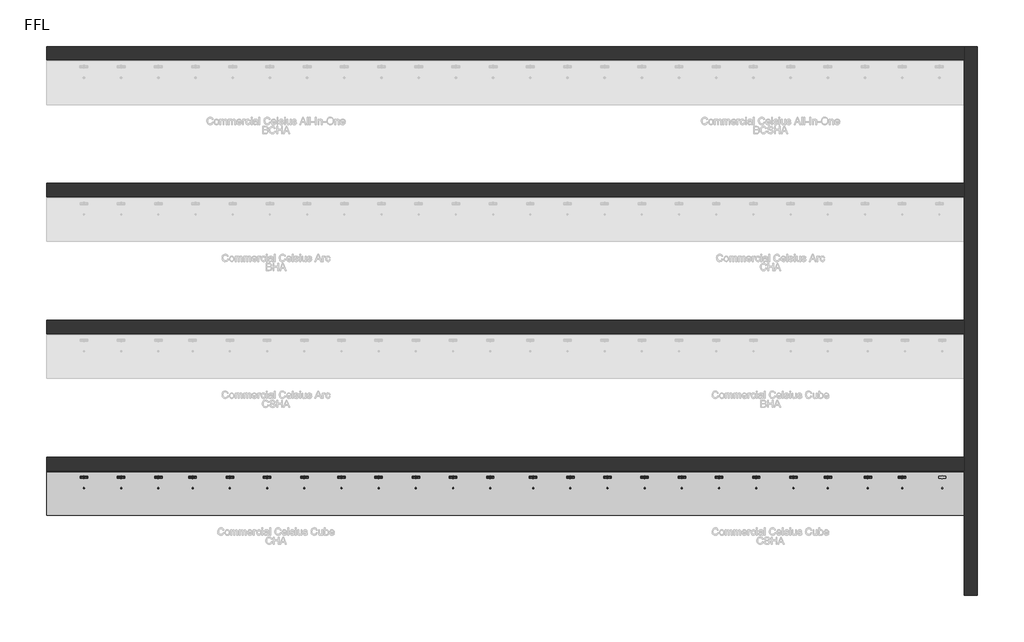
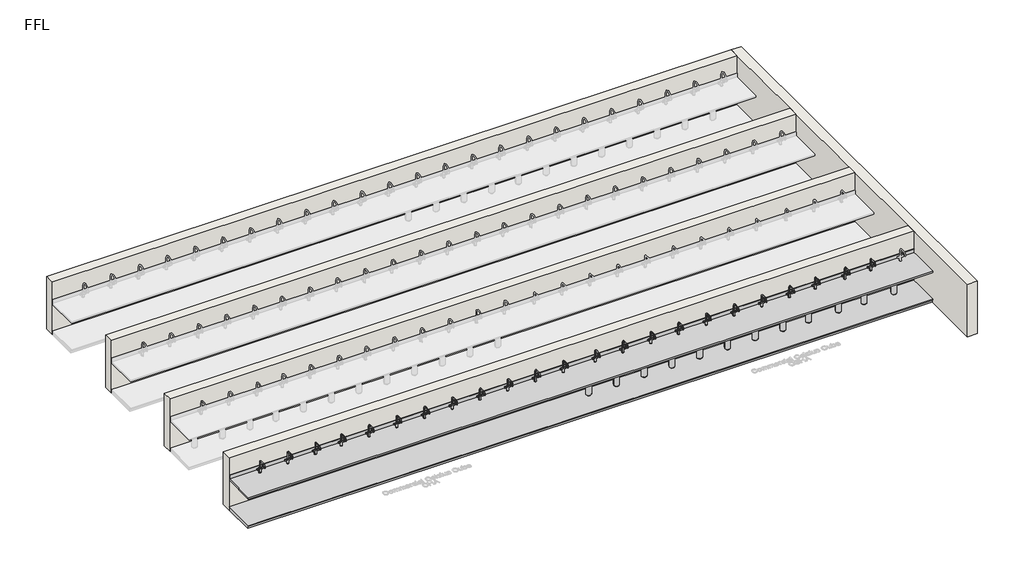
# One storey, part 1 of 10: 59 flow terminals, 5 walls, 2 furniture elements.
"""IFC4 building model written with IfcOpenShell, lengths in millimetres."""

from ifc_helpers import new_model, si_unit, frame, origin, origin_with_axes, place, context, project, spatial, polyline, circle_curve, outline, extrude, faceted_brep, transform, mapped, element, save
from ifc_brep_helpers import plane_surface, revolved_surface, advanced_brep
from components import flow_terminal_1fd3c137, bright_chrome_d5fbbf34, co2_gas_cylinder_20234e14, generic_plinth_900mm_f287d53f

model = new_model("IFC4")

# Units and contexts
model_context = context("Model", 3, world=origin())
ifc_project = project(units=[si_unit("LENGTHUNIT", "METRE", prefix="MILLI")], contexts=[model_context])

# Site, building, storey
site = spatial("IfcSite", under=ifc_project)
building = spatial("IfcBuilding", under=site)
storey = spatial("IfcBuildingStorey", under=building, Name="FFL", Elevation=0.0)

# Flow terminals
placement = place(None, origin())
flow_terminal_shape = flow_terminal_1fd3c137(model_context)
element("IfcFlowTerminal", 1, ObjectType="z_PlumFixt_Zenith_Booster : Booster", at=placement, inside=storey, context=model_context, shape_type="MappedRepresentation", body=[
    mapped(flow_terminal_shape, transform((11089.2647071, -379.7606696, 498.0), x_axis=(1.0, 0.0, 0.0), y_axis=(0.0, 1.0, 0.0), z_axis=(0.0, 0.0, 1.0))),
])
element("IfcFlowTerminal", 2, ObjectType="z_PlumFixt_Zenith_Booster : Booster", at=placement, inside=storey, context=model_context, shape_type="MappedRepresentation", body=[
    mapped(flow_terminal_shape, transform((10282.2647071, -379.7606696, 498.0), x_axis=(1.0, 0.0, 0.0), y_axis=(0.0, 1.0, 0.0), z_axis=(0.0, 0.0, 1.0))),
])
element("IfcFlowTerminal", 3, ObjectType="z_PlumFixt_Zenith_Booster : Booster", at=placement, inside=storey, context=model_context, shape_type="MappedRepresentation", body=[
    mapped(flow_terminal_shape, transform((9589.2647071, -379.7606696, 498.0), x_axis=(1.0, 0.0, 0.0), y_axis=(0.0, 1.0, 0.0), z_axis=(0.0, 0.0, 1.0))),
])
element("IfcFlowTerminal", 4, ObjectType="z_PlumFixt_Zenith_Booster : Booster", at=placement, inside=storey, context=model_context, shape_type="MappedRepresentation", body=[
    mapped(flow_terminal_shape, transform((8782.2647071, -379.7606696, 498.0), x_axis=(1.0, 0.0, 0.0), y_axis=(0.0, 1.0, 0.0), z_axis=(0.0, 0.0, 1.0))),
])
element("IfcFlowTerminal", 5, ObjectType="z_PlumFixt_Zenith_Booster : Booster", at=placement, inside=storey, context=model_context, shape_type="MappedRepresentation", body=[
    mapped(flow_terminal_shape, transform((8089.2647071, -379.7606696, 498.0), x_axis=(1.0, 0.0, 0.0), y_axis=(0.0, 1.0, 0.0), z_axis=(0.0, 0.0, 1.0))),
])
element("IfcFlowTerminal", 6, ObjectType="z_PlumFixt_Zenith_Booster : Booster", at=placement, inside=storey, context=model_context, shape_type="MappedRepresentation", body=[
    mapped(flow_terminal_shape, transform((7339.2647071, -379.7606696, 498.0), x_axis=(1.0, 0.0, 0.0), y_axis=(0.0, 1.0, 0.0), z_axis=(0.0, 0.0, 1.0))),
])
element("IfcFlowTerminal", 7, ObjectType="z_PlumFixt_Zenith_Booster : Booster", at=placement, inside=storey, context=model_context, shape_type="MappedRepresentation", body=[
    mapped(flow_terminal_shape, transform((6589.2647071, -379.7606696, 498.0), x_axis=(1.0, 0.0, 0.0), y_axis=(0.0, 1.0, 0.0), z_axis=(0.0, 0.0, 1.0))),
])
element("IfcFlowTerminal", 8, ObjectType="z_PlumFixt_Zenith_Booster : Booster", at=placement, inside=storey, context=model_context, shape_type="MappedRepresentation", body=[
    mapped(flow_terminal_shape, transform((5839.2647071, -379.7606696, 498.0), x_axis=(1.0, 0.0, 0.0), y_axis=(0.0, 1.0, 0.0), z_axis=(0.0, 0.0, 1.0))),
])
element("IfcFlowTerminal", 9, ObjectType="z_PlumFixt_Zenith_Booster : Booster", at=placement, inside=storey, context=model_context, shape_type="MappedRepresentation", body=[
    mapped(flow_terminal_shape, transform((5089.7647071, -379.7606696, 498.0), x_axis=(1.0, 0.0, 0.0), y_axis=(0.0, 1.0, 0.0), z_axis=(0.0, 0.0, 1.0))),
])
element("IfcFlowTerminal", 10, ObjectType="z_PlumFixt_Zenith_Booster : Booster", at=placement, inside=storey, context=model_context, shape_type="MappedRepresentation", body=[
    mapped(flow_terminal_shape, transform((4339.7647071, -379.7606696, 498.0), x_axis=(1.0, 0.0, 0.0), y_axis=(0.0, 1.0, 0.0), z_axis=(0.0, 0.0, 1.0))),
])
element("IfcFlowTerminal", 11, ObjectType="z_PlumFixt_Zenith_Booster : Booster", at=placement, inside=storey, context=model_context, shape_type="MappedRepresentation", body=[
    mapped(flow_terminal_shape, transform((3589.7647071, -379.7606696, 498.0), x_axis=(1.0, 0.0, 0.0), y_axis=(0.0, 1.0, 0.0), z_axis=(0.0, 0.0, 1.0))),
])
element("IfcFlowTerminal", 12, ObjectType="z_PlumFixt_Zenith_Booster : Booster", at=placement, inside=storey, context=model_context, shape_type="MappedRepresentation", body=[
    mapped(flow_terminal_shape, transform((2839.7647071, -379.7606696, 498.0), x_axis=(1.0, 0.0, 0.0), y_axis=(0.0, 1.0, 0.0), z_axis=(0.0, 0.0, 1.0))),
])
element("IfcFlowTerminal", 13, ObjectType="z_PlumFixt_Zenith_Booster : Booster", at=placement, inside=storey, context=model_context, shape_type="MappedRepresentation", body=[
    mapped(flow_terminal_shape, transform((1976.2647071, -379.7606696, 498.0), x_axis=(1.0, 0.0, 0.0), y_axis=(0.0, 1.0, 0.0), z_axis=(0.0, 0.0, 1.0))),
])
element("IfcFlowTerminal", 14, ObjectType="z_PlumFixt_Zenith_Booster : Booster", at=placement, inside=storey, context=model_context, shape_type="MappedRepresentation", body=[
    mapped(flow_terminal_shape, transform((1226.2647071, -379.7606696, 498.0), x_axis=(1.0, 0.0, 0.0), y_axis=(0.0, 1.0, 0.0), z_axis=(0.0, 0.0, 1.0))),
])
element("IfcFlowTerminal", 15, ObjectType="z_PlumFixt_Zenith_Booster : Booster", at=placement, inside=storey, context=model_context, shape_type="MappedRepresentation", body=[
    mapped(flow_terminal_shape, transform((476.2647071, -379.7606696, 498.0), x_axis=(1.0, 0.0, 0.0), y_axis=(0.0, 1.0, 0.0), z_axis=(0.0, 0.0, 1.0))),
])
element("IfcFlowTerminal", 16, ObjectType="z_PlumFixt_Zenith_Booster : Booster", at=placement, inside=storey, context=model_context, shape_type="MappedRepresentation", body=[
    mapped(flow_terminal_shape, transform((-273.7352929, -379.7606696, 498.0), x_axis=(1.0, 0.0, 0.0), y_axis=(0.0, 1.0, 0.0), z_axis=(0.0, 0.0, 1.0))),
])
element("IfcFlowTerminal", 17, ObjectType="z_PlumFixt_Zenith_Booster : Booster", at=placement, inside=storey, context=model_context, shape_type="MappedRepresentation", body=[
    mapped(flow_terminal_shape, transform((-1023.7352929, -379.7606696, 498.0), x_axis=(1.0, 0.0, 0.0), y_axis=(0.0, 1.0, 0.0), z_axis=(0.0, 0.0, 1.0))),
])
element("IfcFlowTerminal", 18, ObjectType="z_PlumFixt_Zenith_Booster : Booster", at=placement, inside=storey, context=model_context, shape_type="MappedRepresentation", body=[
    mapped(flow_terminal_shape, transform((-1773.7352929, -379.7606696, 498.0), x_axis=(1.0, 0.0, 0.0), y_axis=(0.0, 1.0, 0.0), z_axis=(0.0, 0.0, 1.0))),
])
element("IfcFlowTerminal", 19, ObjectType="z_PlumFixt_Zenith_Booster : Booster", at=placement, inside=storey, context=model_context, shape_type="MappedRepresentation", body=[
    mapped(flow_terminal_shape, transform((-2523.7352929, -379.7606696, 498.0), x_axis=(1.0, 0.0, 0.0), y_axis=(0.0, 1.0, 0.0), z_axis=(0.0, 0.0, 1.0))),
])
element("IfcFlowTerminal", 20, ObjectType="z_PlumFixt_Zenith_Booster : Booster", at=placement, inside=storey, context=model_context, shape_type="MappedRepresentation", body=[
    mapped(flow_terminal_shape, transform((-3273.7352929, -379.7606696, 498.0), x_axis=(1.0, 0.0, 0.0), y_axis=(0.0, 1.0, 0.0), z_axis=(0.0, 0.0, 1.0))),
])
element("IfcFlowTerminal", 21, ObjectType="z_PlumFixt_Zenith_Booster : Booster", at=placement, inside=storey, context=model_context, shape_type="MappedRepresentation", body=[
    mapped(flow_terminal_shape, transform((-4023.7352929, -379.7606696, 498.0), x_axis=(1.0, 0.0, 0.0), y_axis=(0.0, 1.0, 0.0), z_axis=(0.0, 0.0, 1.0))),
])
element("IfcFlowTerminal", 22, ObjectType="z_PlumFixt_Zenith_Booster : Booster", at=placement, inside=storey, context=model_context, shape_type="MappedRepresentation", body=[
    mapped(flow_terminal_shape, transform((-4716.7352929, -379.7606696, 498.0), x_axis=(1.0, 0.0, 0.0), y_axis=(0.0, 1.0, 0.0), z_axis=(0.0, 0.0, 1.0))),
])
element("IfcFlowTerminal", 23, ObjectType="z_PlumFixt_Zenith_Booster : Booster", at=placement, inside=storey, context=model_context, shape_type="MappedRepresentation", body=[
    mapped(flow_terminal_shape, transform((-5466.7352929, -379.7606696, 498.0), x_axis=(1.0, 0.0, 0.0), y_axis=(0.0, 1.0, 0.0), z_axis=(0.0, 0.0, 1.0))),
])
element("IfcFlowTerminal", 24, ObjectType="z_PlumFixt_Zenith_Booster : Booster", at=placement, inside=storey, context=model_context, shape_type="MappedRepresentation", body=[
    mapped(flow_terminal_shape, transform((-6216.7352929, -379.7606696, 498.0), x_axis=(1.0, 0.0, 0.0), y_axis=(0.0, 1.0, 0.0), z_axis=(0.0, 0.0, 1.0))),
])
bright_chrome_shape = bright_chrome_d5fbbf34(model_context)
element("IfcFlowTerminal", 25, ObjectType="z_PlumFixt_Zenith_Celsius Cube : Bright Chrome", at=placement, inside=storey, context=model_context, shape_type="MappedRepresentation", body=[
    mapped(bright_chrome_shape, transform((1976.2647071, -655.5106696, 900.0), x_axis=(1.0, 0.0, 0.0), y_axis=(0.0, 1.0, 0.0), z_axis=(0.0, 0.0, 1.0))),
])
element("IfcFlowTerminal", 26, ObjectType="z_PlumFixt_Zenith_Celsius Cube : Brushed Chrome", at=placement, inside=storey, context=model_context, shape_type="MappedRepresentation", body=[
    mapped(bright_chrome_shape, transform((10282.2647071, -655.5106696, 900.0), x_axis=(1.0, 0.0, 0.0), y_axis=(0.0, 1.0, 0.0), z_axis=(0.0, 0.0, 1.0))),
])
element("IfcFlowTerminal", 27, ObjectType="z_PlumFixt_Zenith_Celsius Cube : Brushed Chrome", at=placement, inside=storey, context=model_context, shape_type="MappedRepresentation", body=[
    mapped(bright_chrome_shape, transform((1226.2647071, -655.5106696, 900.0), x_axis=(1.0, 0.0, 0.0), y_axis=(0.0, 1.0, 0.0), z_axis=(0.0, 0.0, 1.0))),
])
element("IfcFlowTerminal", 28, ObjectType="z_PlumFixt_Zenith_Celsius Cube : Brushed Gold", at=placement, inside=storey, context=model_context, shape_type="MappedRepresentation", body=[
    mapped(bright_chrome_shape, transform((9589.2647071, -655.5106696, 900.0), x_axis=(1.0, 0.0, 0.0), y_axis=(0.0, 1.0, 0.0), z_axis=(0.0, 0.0, 1.0))),
])
element("IfcFlowTerminal", 29, ObjectType="z_PlumFixt_Zenith_Celsius Cube : Brushed Gold", at=placement, inside=storey, context=model_context, shape_type="MappedRepresentation", body=[
    mapped(bright_chrome_shape, transform((476.2647071, -655.5106696, 900.0), x_axis=(1.0, 0.0, 0.0), y_axis=(0.0, 1.0, 0.0), z_axis=(0.0, 0.0, 1.0))),
])
element("IfcFlowTerminal", 30, ObjectType="z_PlumFixt_Zenith_Celsius Cube : Brushed Nickel", at=placement, inside=storey, context=model_context, shape_type="MappedRepresentation", body=[
    mapped(bright_chrome_shape, transform((8782.2647071, -655.5106696, 900.0), x_axis=(1.0, 0.0, 0.0), y_axis=(0.0, 1.0, 0.0), z_axis=(0.0, 0.0, 1.0))),
])
element("IfcFlowTerminal", 31, ObjectType="z_PlumFixt_Zenith_Celsius Cube : Brushed Nickel", at=placement, inside=storey, context=model_context, shape_type="MappedRepresentation", body=[
    mapped(bright_chrome_shape, transform((-273.7352929, -655.5106696, 900.0), x_axis=(1.0, 0.0, 0.0), y_axis=(0.0, 1.0, 0.0), z_axis=(0.0, 0.0, 1.0))),
])
element("IfcFlowTerminal", 32, ObjectType="z_PlumFixt_Zenith_Celsius Cube : Brushed Rose Gold", at=placement, inside=storey, context=model_context, shape_type="MappedRepresentation", body=[
    mapped(bright_chrome_shape, transform((8089.2647071, -655.5106696, 900.0), x_axis=(1.0, 0.0, 0.0), y_axis=(0.0, 1.0, 0.0), z_axis=(0.0, 0.0, 1.0))),
])
element("IfcFlowTerminal", 33, ObjectType="z_PlumFixt_Zenith_Celsius Cube : Brushed Rose Gold", at=placement, inside=storey, context=model_context, shape_type="MappedRepresentation", body=[
    mapped(bright_chrome_shape, transform((-1023.7352929, -655.5106696, 900.0), x_axis=(1.0, 0.0, 0.0), y_axis=(0.0, 1.0, 0.0), z_axis=(0.0, 0.0, 1.0))),
])
co2_gas_cylinder_shape = co2_gas_cylinder_20234e14(model_context)
element("IfcFlowTerminal", 34, ObjectType="z_PlumFixt_Zenith_CO2 Gas Cylinder : CO2 Gas Cylinder", at=placement, inside=storey, context=model_context, shape_type="MappedRepresentation", body=[
    mapped(co2_gas_cylinder_shape, transform((10851.2647071, -761.7606696, 100.0), x_axis=(-1.0, 0.0, 0.0), y_axis=(0.0, -1.0, 0.0), z_axis=(0.0, 0.0, 1.0))),
])
element("IfcFlowTerminal", 35, ObjectType="z_PlumFixt_Zenith_CO2 Gas Cylinder : CO2 Gas Cylinder", at=placement, inside=storey, context=model_context, shape_type="MappedRepresentation", body=[
    mapped(co2_gas_cylinder_shape, transform((10044.2647071, -761.7606696, 100.0), x_axis=(-1.0, 0.0, 0.0), y_axis=(0.0, -1.0, 0.0), z_axis=(0.0, 0.0, 1.0))),
])
element("IfcFlowTerminal", 36, ObjectType="z_PlumFixt_Zenith_CO2 Gas Cylinder : CO2 Gas Cylinder", at=placement, inside=storey, context=model_context, shape_type="MappedRepresentation", body=[
    mapped(co2_gas_cylinder_shape, transform((9351.2647071, -761.7606696, 100.0), x_axis=(-1.0, 0.0, 0.0), y_axis=(0.0, -1.0, 0.0), z_axis=(0.0, 0.0, 1.0))),
])
element("IfcFlowTerminal", 37, ObjectType="z_PlumFixt_Zenith_CO2 Gas Cylinder : CO2 Gas Cylinder", at=placement, inside=storey, context=model_context, shape_type="MappedRepresentation", body=[
    mapped(co2_gas_cylinder_shape, transform((8544.2647071, -761.7606696, 100.0), x_axis=(-1.0, 0.0, 0.0), y_axis=(0.0, -1.0, 0.0), z_axis=(0.0, 0.0, 1.0))),
])
element("IfcFlowTerminal", 38, ObjectType="z_PlumFixt_Zenith_CO2 Gas Cylinder : CO2 Gas Cylinder", at=placement, inside=storey, context=model_context, shape_type="MappedRepresentation", body=[
    mapped(co2_gas_cylinder_shape, transform((7851.2647071, -761.7606696, 100.0), x_axis=(-1.0, 0.0, 0.0), y_axis=(0.0, -1.0, 0.0), z_axis=(0.0, 0.0, 1.0))),
])
element("IfcFlowTerminal", 39, ObjectType="z_PlumFixt_Zenith_CO2 Gas Cylinder : CO2 Gas Cylinder", at=placement, inside=storey, context=model_context, shape_type="MappedRepresentation", body=[
    mapped(co2_gas_cylinder_shape, transform((7101.2647071, -761.7606696, 100.0), x_axis=(-1.0, 0.0, 0.0), y_axis=(0.0, -1.0, 0.0), z_axis=(0.0, 0.0, 1.0))),
])
element("IfcFlowTerminal", 40, ObjectType="z_PlumFixt_Zenith_CO2 Gas Cylinder : CO2 Gas Cylinder", at=placement, inside=storey, context=model_context, shape_type="MappedRepresentation", body=[
    mapped(co2_gas_cylinder_shape, transform((6351.2647071, -761.7606696, 100.0), x_axis=(-1.0, 0.0, 0.0), y_axis=(0.0, -1.0, 0.0), z_axis=(0.0, 0.0, 1.0))),
])
element("IfcFlowTerminal", 41, ObjectType="z_PlumFixt_Zenith_CO2 Gas Cylinder : CO2 Gas Cylinder", at=placement, inside=storey, context=model_context, shape_type="MappedRepresentation", body=[
    mapped(co2_gas_cylinder_shape, transform((5601.2647071, -761.7606696, 100.0), x_axis=(-1.0, 0.0, 0.0), y_axis=(0.0, -1.0, 0.0), z_axis=(0.0, 0.0, 1.0))),
])
element("IfcFlowTerminal", 42, ObjectType="z_PlumFixt_Zenith_CO2 Gas Cylinder : CO2 Gas Cylinder", at=placement, inside=storey, context=model_context, shape_type="MappedRepresentation", body=[
    mapped(co2_gas_cylinder_shape, transform((4851.7647071, -761.7606696, 100.0), x_axis=(-1.0, 0.0, 0.0), y_axis=(0.0, -1.0, 0.0), z_axis=(0.0, 0.0, 1.0))),
])
element("IfcFlowTerminal", 43, ObjectType="z_PlumFixt_Zenith_CO2 Gas Cylinder : CO2 Gas Cylinder", at=placement, inside=storey, context=model_context, shape_type="MappedRepresentation", body=[
    mapped(co2_gas_cylinder_shape, transform((4101.7647071, -761.7606696, 100.0), x_axis=(-1.0, 0.0, 0.0), y_axis=(0.0, -1.0, 0.0), z_axis=(0.0, 0.0, 1.0))),
])
element("IfcFlowTerminal", 44, ObjectType="z_PlumFixt_Zenith_CO2 Gas Cylinder : CO2 Gas Cylinder", at=placement, inside=storey, context=model_context, shape_type="MappedRepresentation", body=[
    mapped(co2_gas_cylinder_shape, transform((3351.7647071, -761.7606696, 100.0), x_axis=(-1.0, 0.0, 0.0), y_axis=(0.0, -1.0, 0.0), z_axis=(0.0, 0.0, 1.0))),
])
element("IfcFlowTerminal", 45, ObjectType="z_PlumFixt_Zenith_CO2 Gas Cylinder : CO2 Gas Cylinder", at=placement, inside=storey, context=model_context, shape_type="MappedRepresentation", body=[
    mapped(co2_gas_cylinder_shape, transform((2601.7647071, -761.7606696, 100.0), x_axis=(-1.0, 0.0, 0.0), y_axis=(0.0, -1.0, 0.0), z_axis=(0.0, 0.0, 1.0))),
])
element("IfcFlowTerminal", 46, ObjectType="z_PlumFixt_Zenith_Celsius Cube : Gloss Black", at=placement, inside=storey, context=model_context, shape_type="MappedRepresentation", body=[
    mapped(bright_chrome_shape, transform((7339.2647071, -655.5106696, 900.0), x_axis=(1.0, 0.0, 0.0), y_axis=(0.0, 1.0, 0.0), z_axis=(0.0, 0.0, 1.0))),
])
element("IfcFlowTerminal", 47, ObjectType="z_PlumFixt_Zenith_Celsius Cube : Gloss Black", at=placement, inside=storey, context=model_context, shape_type="MappedRepresentation", body=[
    mapped(bright_chrome_shape, transform((-1773.7352929, -655.5106696, 900.0), x_axis=(1.0, 0.0, 0.0), y_axis=(0.0, 1.0, 0.0), z_axis=(0.0, 0.0, 1.0))),
])
element("IfcFlowTerminal", 48, ObjectType="z_PlumFixt_Zenith_Celsius Cube : Gold", at=placement, inside=storey, context=model_context, shape_type="MappedRepresentation", body=[
    mapped(bright_chrome_shape, transform((6589.2647071, -655.5106696, 900.0), x_axis=(1.0, 0.0, 0.0), y_axis=(0.0, 1.0, 0.0), z_axis=(0.0, 0.0, 1.0))),
])
element("IfcFlowTerminal", 49, ObjectType="z_PlumFixt_Zenith_Celsius Cube : Gold", at=placement, inside=storey, context=model_context, shape_type="MappedRepresentation", body=[
    mapped(bright_chrome_shape, transform((-2523.7352929, -655.5106696, 900.0), x_axis=(1.0, 0.0, 0.0), y_axis=(0.0, 1.0, 0.0), z_axis=(0.0, 0.0, 1.0))),
])
element("IfcFlowTerminal", 50, ObjectType="z_PlumFixt_Zenith_Celsius Cube : Gunmetal", at=placement, inside=storey, context=model_context, shape_type="MappedRepresentation", body=[
    mapped(bright_chrome_shape, transform((5839.2647071, -655.5106696, 900.0), x_axis=(1.0, 0.0, 0.0), y_axis=(0.0, 1.0, 0.0), z_axis=(0.0, 0.0, 1.0))),
])
element("IfcFlowTerminal", 51, ObjectType="z_PlumFixt_Zenith_Celsius Cube : Gunmetal", at=placement, inside=storey, context=model_context, shape_type="MappedRepresentation", body=[
    mapped(bright_chrome_shape, transform((-3273.7352929, -655.5106696, 900.0), x_axis=(1.0, 0.0, 0.0), y_axis=(0.0, 1.0, 0.0), z_axis=(0.0, 0.0, 1.0))),
])
element("IfcFlowTerminal", 52, ObjectType="z_PlumFixt_Zenith_Celsius Cube : Matte Black", at=placement, inside=storey, context=model_context, shape_type="MappedRepresentation", body=[
    mapped(bright_chrome_shape, transform((5089.7647071, -655.5106696, 900.0), x_axis=(1.0, 0.0, 0.0), y_axis=(0.0, 1.0, 0.0), z_axis=(0.0, 0.0, 1.0))),
])
element("IfcFlowTerminal", 53, ObjectType="z_PlumFixt_Zenith_Celsius Cube : Matte Black", at=placement, inside=storey, context=model_context, shape_type="MappedRepresentation", body=[
    mapped(bright_chrome_shape, transform((-4023.7352929, -655.5106696, 900.0), x_axis=(1.0, 0.0, 0.0), y_axis=(0.0, 1.0, 0.0), z_axis=(0.0, 0.0, 1.0))),
])
element("IfcFlowTerminal", 54, ObjectType="z_PlumFixt_Zenith_Celsius Cube : Nickel", at=placement, inside=storey, context=model_context, shape_type="MappedRepresentation", body=[
    mapped(bright_chrome_shape, transform((4339.7647071, -655.5106696, 900.0), x_axis=(1.0, 0.0, 0.0), y_axis=(0.0, 1.0, 0.0), z_axis=(0.0, 0.0, 1.0))),
])
element("IfcFlowTerminal", 55, ObjectType="z_PlumFixt_Zenith_Celsius Cube : Nickel", at=placement, inside=storey, context=model_context, shape_type="MappedRepresentation", body=[
    mapped(bright_chrome_shape, transform((-4716.7352929, -655.5106696, 900.0), x_axis=(1.0, 0.0, 0.0), y_axis=(0.0, 1.0, 0.0), z_axis=(0.0, 0.0, 1.0))),
])
element("IfcFlowTerminal", 56, ObjectType="z_PlumFixt_Zenith_Celsius Cube : Platinum", at=placement, inside=storey, context=model_context, shape_type="MappedRepresentation", body=[
    mapped(bright_chrome_shape, transform((3589.7647071, -655.5106696, 900.0), x_axis=(1.0, 0.0, 0.0), y_axis=(0.0, 1.0, 0.0), z_axis=(0.0, 0.0, 1.0))),
])
element("IfcFlowTerminal", 57, ObjectType="z_PlumFixt_Zenith_Celsius Cube : Platinum", at=placement, inside=storey, context=model_context, shape_type="MappedRepresentation", body=[
    mapped(bright_chrome_shape, transform((-5466.7352929, -655.5106696, 900.0), x_axis=(1.0, 0.0, 0.0), y_axis=(0.0, 1.0, 0.0), z_axis=(0.0, 0.0, 1.0))),
])
element("IfcFlowTerminal", 58, ObjectType="z_PlumFixt_Zenith_Celsius Cube : Rose Gold", at=placement, inside=storey, context=model_context, shape_type="MappedRepresentation", body=[
    mapped(bright_chrome_shape, transform((2839.7647071, -655.5106696, 900.0), x_axis=(1.0, 0.0, 0.0), y_axis=(0.0, 1.0, 0.0), z_axis=(0.0, 0.0, 1.0))),
])
element("IfcFlowTerminal", 59, ObjectType="z_PlumFixt_Zenith_Celsius Cube : Rose Gold", at=placement, inside=storey, context=model_context, shape_type="MappedRepresentation", body=[
    mapped(bright_chrome_shape, transform((-6216.7352929, -655.5106696, 900.0), x_axis=(1.0, 0.0, 0.0), y_axis=(0.0, 1.0, 0.0), z_axis=(0.0, 0.0, 1.0))),
])

# Furniture
element("IfcFurniture", 60, ObjectType="Counter Top : 900mm Depth", at=placement, inside=storey, context=model_context, shape_type="AdvancedBrep", body=[
    advanced_brep(
    [(-6969.7352929, -1331.7606696, 900.0), (11530.2647071, -1331.7606696, 900.0), (11530.2647071, -450.8106696, 900.0), (-6969.7352929, -450.8106696, 900.0), (2816.2647071, -566.7606696, 900.0), (2865.2647071, -566.7606696, 900.0), (3566.2647071, -566.7606696, 900.0), (3615.2647071, -566.7606696, 900.0), (4316.2647071, -566.7606696, 900.0), (4365.2647071, -566.7606696, 900.0), (5066.2647071, -566.7606696, 900.0), (5115.2647071, -566.7606696, 900.0), (5815.7647071, -566.7606696, 900.0), (5864.7647071, -566.7606696, 900.0), (6565.7647071, -566.7606696, 900.0), (6614.7647071, -566.7606696, 900.0), (7315.7647071, -566.7606696, 900.0), (7364.7647071, -566.7606696, 900.0), (8065.7647071, -566.7606696, 900.0), (8114.7647071, -566.7606696, 900.0), (8758.7647071, -566.7606696, 900.0), (8807.7647071, -566.7606696, 900.0), (9565.7647071, -566.7606696, 900.0), (9614.7647071, -566.7606696, 900.0), (10258.7647071, -566.7606696, 900.0), (10307.7647071, -566.7606696, 900.0), (11065.7647071, -566.7606696, 900.0), (11114.7647071, -566.7606696, 900.0), (-6240.2352929, -566.7606696, 900.0), (-6191.2352929, -566.7606696, 900.0), (-5490.2352929, -566.7606696, 900.0), (-5441.2352929, -566.7606696, 900.0), (-4740.2352929, -566.7606696, 900.0), (-4691.2352929, -566.7606696, 900.0), (-4047.2352929, -566.7606696, 900.0), (-3998.2352929, -566.7606696, 900.0), (-3297.2352929, -566.7606696, 900.0), (-3248.2352929, -566.7606696, 900.0), (-2547.2352929, -566.7606696, 900.0), (-2498.2352929, -566.7606696, 900.0), (-1797.2352929, -566.7606696, 900.0), (-1748.2352929, -566.7606696, 900.0), (-1047.2352929, -566.7606696, 900.0), (-998.2352929, -566.7606696, 900.0), (-297.2352929, -566.7606696, 900.0), (-248.2352929, -566.7606696, 900.0), (452.7647071, -566.7606696, 900.0), (501.7647071, -566.7606696, 900.0), (1202.7647071, -566.7606696, 900.0), (1251.7647071, -566.7606696, 900.0), (1952.7647071, -566.7606696, 900.0), (2001.7647071, -566.7606696, 900.0), (11530.2647071, -431.7606696, 860.0), (11530.2647071, -1331.7606696, 860.0), (-6969.7352929, -1331.7606696, 860.0), (-6969.7352929, -431.7606696, 860.0), (2865.2647071, -566.7606696, 860.0), (2816.2647071, -566.7606696, 860.0), (3615.2647071, -566.7606696, 860.0), (3566.2647071, -566.7606696, 860.0), (4365.2647071, -566.7606696, 860.0), (4316.2647071, -566.7606696, 860.0), (5115.2647071, -566.7606696, 860.0), (5066.2647071, -566.7606696, 860.0), (5864.7647071, -566.7606696, 860.0), (5815.7647071, -566.7606696, 860.0), (6614.7647071, -566.7606696, 860.0), (6565.7647071, -566.7606696, 860.0), (7364.7647071, -566.7606696, 860.0), (7315.7647071, -566.7606696, 860.0), (8114.7647071, -566.7606696, 860.0), (8065.7647071, -566.7606696, 860.0), (8807.7647071, -566.7606696, 860.0), (8758.7647071, -566.7606696, 860.0), (9614.7647071, -566.7606696, 860.0), (9565.7647071, -566.7606696, 860.0), (10307.7647071, -566.7606696, 860.0), (10258.7647071, -566.7606696, 860.0), (11114.7647071, -566.7606696, 860.0), (11065.7647071, -566.7606696, 860.0), (-6191.2352929, -566.7606696, 860.0), (-6240.2352929, -566.7606696, 860.0), (-5441.2352929, -566.7606696, 860.0), (-5490.2352929, -566.7606696, 860.0), (-4691.2352929, -566.7606696, 860.0), (-4740.2352929, -566.7606696, 860.0), (-3998.2352929, -566.7606696, 860.0), (-4047.2352929, -566.7606696, 860.0), (-3248.2352929, -566.7606696, 860.0), (-3297.2352929, -566.7606696, 860.0), (-2498.2352929, -566.7606696, 860.0), (-2547.2352929, -566.7606696, 860.0), (-1748.2352929, -566.7606696, 860.0), (-1797.2352929, -566.7606696, 860.0), (-998.2352929, -566.7606696, 860.0), (-1047.2352929, -566.7606696, 860.0), (-248.2352929, -566.7606696, 860.0), (-297.2352929, -566.7606696, 860.0), (501.7647071, -566.7606696, 860.0), (452.7647071, -566.7606696, 860.0), (1251.7647071, -566.7606696, 860.0), (1202.7647071, -566.7606696, 860.0), (2001.7647071, -566.7606696, 860.0), (1952.7647071, -566.7606696, 860.0), (-6969.7352929, -431.7606696, 1001.6), (11530.2647071, -431.7606696, 1001.6), (-6969.7352929, -450.8106696, 1001.6), (11530.2647071, -450.8106696, 1001.6)],
    [
        (0, 1),
        (1, 2),
        (2, 3),
        (3, 0),
        (4, 5, circle_curve(frame((2840.7647071, -566.7606696, 900.0), z_axis=(0.0, 0.0, -1.0), x_axis=(-1.0, 0.0, 0.0)), 24.5)),
        (5, 4, circle_curve(frame((2840.7647071, -566.7606696, 900.0), z_axis=(0.0, 0.0, -1.0), x_axis=(-1.0, 0.0, 0.0)), 24.5)),
        (6, 7, circle_curve(frame((3590.7647071, -566.7606696, 900.0), z_axis=(0.0, 0.0, -1.0), x_axis=(-1.0, 0.0, 0.0)), 24.5)),
        (7, 6, circle_curve(frame((3590.7647071, -566.7606696, 900.0), z_axis=(0.0, 0.0, -1.0), x_axis=(-1.0, 0.0, 0.0)), 24.5)),
        (8, 9, circle_curve(frame((4340.7647071, -566.7606696, 900.0), z_axis=(0.0, 0.0, -1.0), x_axis=(-1.0, 0.0, 0.0)), 24.5)),
        (9, 8, circle_curve(frame((4340.7647071, -566.7606696, 900.0), z_axis=(0.0, 0.0, -1.0), x_axis=(-1.0, 0.0, 0.0)), 24.5)),
        (10, 11, circle_curve(frame((5090.7647071, -566.7606696, 900.0), z_axis=(0.0, 0.0, -1.0), x_axis=(-1.0, 0.0, 0.0)), 24.5)),
        (11, 10, circle_curve(frame((5090.7647071, -566.7606696, 900.0), z_axis=(0.0, 0.0, -1.0), x_axis=(-1.0, 0.0, 0.0)), 24.5)),
        (12, 13, circle_curve(frame((5840.2647071, -566.7606696, 900.0), z_axis=(0.0, 0.0, -1.0), x_axis=(-1.0, 0.0, 0.0)), 24.5)),
        (13, 12, circle_curve(frame((5840.2647071, -566.7606696, 900.0), z_axis=(0.0, 0.0, -1.0), x_axis=(-1.0, 0.0, 0.0)), 24.5)),
        (14, 15, circle_curve(frame((6590.2647071, -566.7606696, 900.0), z_axis=(0.0, 0.0, -1.0), x_axis=(-1.0, 0.0, 0.0)), 24.5)),
        (15, 14, circle_curve(frame((6590.2647071, -566.7606696, 900.0), z_axis=(0.0, 0.0, -1.0), x_axis=(-1.0, 0.0, 0.0)), 24.5)),
        (16, 17, circle_curve(frame((7340.2647071, -566.7606696, 900.0), z_axis=(0.0, 0.0, -1.0), x_axis=(-1.0, 0.0, 0.0)), 24.5)),
        (17, 16, circle_curve(frame((7340.2647071, -566.7606696, 900.0), z_axis=(0.0, 0.0, -1.0), x_axis=(-1.0, 0.0, 0.0)), 24.5)),
        (18, 19, circle_curve(frame((8090.2647071, -566.7606696, 900.0), z_axis=(0.0, 0.0, -1.0), x_axis=(-1.0, 0.0, 0.0)), 24.5)),
        (19, 18, circle_curve(frame((8090.2647071, -566.7606696, 900.0), z_axis=(0.0, 0.0, -1.0), x_axis=(-1.0, 0.0, 0.0)), 24.5)),
        (20, 21, circle_curve(frame((8783.2647071, -566.7606696, 900.0), z_axis=(0.0, 0.0, -1.0), x_axis=(-1.0, 0.0, 0.0)), 24.5)),
        (21, 20, circle_curve(frame((8783.2647071, -566.7606696, 900.0), z_axis=(0.0, 0.0, -1.0), x_axis=(-1.0, 0.0, 0.0)), 24.5)),
        (22, 23, circle_curve(frame((9590.2647071, -566.7606696, 900.0), z_axis=(0.0, 0.0, -1.0), x_axis=(-1.0, 0.0, 0.0)), 24.5)),
        (23, 22, circle_curve(frame((9590.2647071, -566.7606696, 900.0), z_axis=(0.0, 0.0, -1.0), x_axis=(-1.0, 0.0, 0.0)), 24.5)),
        (24, 25, circle_curve(frame((10283.2647071, -566.7606696, 900.0), z_axis=(0.0, 0.0, -1.0), x_axis=(-1.0, 0.0, 0.0)), 24.5)),
        (25, 24, circle_curve(frame((10283.2647071, -566.7606696, 900.0), z_axis=(0.0, 0.0, -1.0), x_axis=(-1.0, 0.0, 0.0)), 24.5)),
        (26, 27, circle_curve(frame((11090.2647071, -566.7606696, 900.0), z_axis=(0.0, 0.0, -1.0), x_axis=(-1.0, 0.0, 0.0)), 24.5)),
        (27, 26, circle_curve(frame((11090.2647071, -566.7606696, 900.0), z_axis=(0.0, 0.0, -1.0), x_axis=(-1.0, 0.0, 0.0)), 24.5)),
        (28, 29, circle_curve(frame((-6215.7352929, -566.7606696, 900.0), z_axis=(0.0, 0.0, -1.0), x_axis=(-1.0, 0.0, 0.0)), 24.5)),
        (29, 28, circle_curve(frame((-6215.7352929, -566.7606696, 900.0), z_axis=(0.0, 0.0, -1.0), x_axis=(-1.0, 0.0, 0.0)), 24.5)),
        (30, 31, circle_curve(frame((-5465.7352929, -566.7606696, 900.0), z_axis=(0.0, 0.0, -1.0), x_axis=(-1.0, 0.0, 0.0)), 24.5)),
        (31, 30, circle_curve(frame((-5465.7352929, -566.7606696, 900.0), z_axis=(0.0, 0.0, -1.0), x_axis=(-1.0, 0.0, 0.0)), 24.5)),
        (32, 33, circle_curve(frame((-4715.7352929, -566.7606696, 900.0), z_axis=(0.0, 0.0, -1.0), x_axis=(-1.0, 0.0, 0.0)), 24.5)),
        (33, 32, circle_curve(frame((-4715.7352929, -566.7606696, 900.0), z_axis=(0.0, 0.0, -1.0), x_axis=(-1.0, 0.0, 0.0)), 24.5)),
        (34, 35, circle_curve(frame((-4022.7352929, -566.7606696, 900.0), z_axis=(0.0, 0.0, -1.0), x_axis=(-1.0, 0.0, 0.0)), 24.5)),
        (35, 34, circle_curve(frame((-4022.7352929, -566.7606696, 900.0), z_axis=(0.0, 0.0, -1.0), x_axis=(-1.0, 0.0, 0.0)), 24.5)),
        (36, 37, circle_curve(frame((-3272.7352929, -566.7606696, 900.0), z_axis=(0.0, 0.0, -1.0), x_axis=(-1.0, 0.0, 0.0)), 24.5)),
        (37, 36, circle_curve(frame((-3272.7352929, -566.7606696, 900.0), z_axis=(0.0, 0.0, -1.0), x_axis=(-1.0, 0.0, 0.0)), 24.5)),
        (38, 39, circle_curve(frame((-2522.7352929, -566.7606696, 900.0), z_axis=(0.0, 0.0, -1.0), x_axis=(-1.0, 0.0, 0.0)), 24.5)),
        (39, 38, circle_curve(frame((-2522.7352929, -566.7606696, 900.0), z_axis=(0.0, 0.0, -1.0), x_axis=(-1.0, 0.0, 0.0)), 24.5)),
        (40, 41, circle_curve(frame((-1772.7352929, -566.7606696, 900.0), z_axis=(0.0, 0.0, -1.0), x_axis=(-1.0, 0.0, 0.0)), 24.5)),
        (41, 40, circle_curve(frame((-1772.7352929, -566.7606696, 900.0), z_axis=(0.0, 0.0, -1.0), x_axis=(-1.0, 0.0, 0.0)), 24.5)),
        (42, 43, circle_curve(frame((-1022.7352929, -566.7606696, 900.0), z_axis=(0.0, 0.0, -1.0), x_axis=(-1.0, 0.0, 0.0)), 24.5)),
        (43, 42, circle_curve(frame((-1022.7352929, -566.7606696, 900.0), z_axis=(0.0, 0.0, -1.0), x_axis=(-1.0, 0.0, 0.0)), 24.5)),
        (44, 45, circle_curve(frame((-272.7352929, -566.7606696, 900.0), z_axis=(0.0, 0.0, -1.0), x_axis=(-1.0, 0.0, 0.0)), 24.5)),
        (45, 44, circle_curve(frame((-272.7352929, -566.7606696, 900.0), z_axis=(0.0, 0.0, -1.0), x_axis=(-1.0, 0.0, 0.0)), 24.5)),
        (46, 47, circle_curve(frame((477.2647071, -566.7606696, 900.0), z_axis=(0.0, 0.0, -1.0), x_axis=(-1.0, 0.0, 0.0)), 24.5)),
        (47, 46, circle_curve(frame((477.2647071, -566.7606696, 900.0), z_axis=(0.0, 0.0, -1.0), x_axis=(-1.0, 0.0, 0.0)), 24.5)),
        (48, 49, circle_curve(frame((1227.2647071, -566.7606696, 900.0), z_axis=(0.0, 0.0, -1.0), x_axis=(-1.0, 0.0, 0.0)), 24.5)),
        (49, 48, circle_curve(frame((1227.2647071, -566.7606696, 900.0), z_axis=(0.0, 0.0, -1.0), x_axis=(-1.0, 0.0, 0.0)), 24.5)),
        (50, 51, circle_curve(frame((1977.2647071, -566.7606696, 900.0), z_axis=(0.0, 0.0, -1.0), x_axis=(-1.0, 0.0, 0.0)), 24.5)),
        (51, 50, circle_curve(frame((1977.2647071, -566.7606696, 900.0), z_axis=(0.0, 0.0, -1.0), x_axis=(-1.0, 0.0, 0.0)), 24.5)),
        (52, 53),
        (53, 54),
        (54, 55),
        (55, 52),
        (56, 57, circle_curve(frame((2840.7647071, -566.7606696, 860.0), z_axis=(0.0, 0.0, 1.0), x_axis=(-1.0, 0.0, 0.0)), 24.5)),
        (57, 56, circle_curve(frame((2840.7647071, -566.7606696, 860.0), z_axis=(0.0, 0.0, 1.0), x_axis=(-1.0, 0.0, 0.0)), 24.5)),
        (58, 59, circle_curve(frame((3590.7647071, -566.7606696, 860.0), z_axis=(0.0, 0.0, 1.0), x_axis=(-1.0, 0.0, 0.0)), 24.5)),
        (59, 58, circle_curve(frame((3590.7647071, -566.7606696, 860.0), z_axis=(0.0, 0.0, 1.0), x_axis=(-1.0, 0.0, 0.0)), 24.5)),
        (60, 61, circle_curve(frame((4340.7647071, -566.7606696, 860.0), z_axis=(0.0, 0.0, 1.0), x_axis=(-1.0, 0.0, 0.0)), 24.5)),
        (61, 60, circle_curve(frame((4340.7647071, -566.7606696, 860.0), z_axis=(0.0, 0.0, 1.0), x_axis=(-1.0, 0.0, 0.0)), 24.5)),
        (62, 63, circle_curve(frame((5090.7647071, -566.7606696, 860.0), z_axis=(0.0, 0.0, 1.0), x_axis=(-1.0, 0.0, 0.0)), 24.5)),
        (63, 62, circle_curve(frame((5090.7647071, -566.7606696, 860.0), z_axis=(0.0, 0.0, 1.0), x_axis=(-1.0, 0.0, 0.0)), 24.5)),
        (64, 65, circle_curve(frame((5840.2647071, -566.7606696, 860.0), z_axis=(0.0, 0.0, 1.0), x_axis=(-1.0, 0.0, 0.0)), 24.5)),
        (65, 64, circle_curve(frame((5840.2647071, -566.7606696, 860.0), z_axis=(0.0, 0.0, 1.0), x_axis=(-1.0, 0.0, 0.0)), 24.5)),
        (66, 67, circle_curve(frame((6590.2647071, -566.7606696, 860.0), z_axis=(0.0, 0.0, 1.0), x_axis=(-1.0, 0.0, 0.0)), 24.5)),
        (67, 66, circle_curve(frame((6590.2647071, -566.7606696, 860.0), z_axis=(0.0, 0.0, 1.0), x_axis=(-1.0, 0.0, 0.0)), 24.5)),
        (68, 69, circle_curve(frame((7340.2647071, -566.7606696, 860.0), z_axis=(0.0, 0.0, 1.0), x_axis=(-1.0, 0.0, 0.0)), 24.5)),
        (69, 68, circle_curve(frame((7340.2647071, -566.7606696, 860.0), z_axis=(0.0, 0.0, 1.0), x_axis=(-1.0, 0.0, 0.0)), 24.5)),
        (70, 71, circle_curve(frame((8090.2647071, -566.7606696, 860.0), z_axis=(0.0, 0.0, 1.0), x_axis=(-1.0, 0.0, 0.0)), 24.5)),
        (71, 70, circle_curve(frame((8090.2647071, -566.7606696, 860.0), z_axis=(0.0, 0.0, 1.0), x_axis=(-1.0, 0.0, 0.0)), 24.5)),
        (72, 73, circle_curve(frame((8783.2647071, -566.7606696, 860.0), z_axis=(0.0, 0.0, 1.0), x_axis=(-1.0, 0.0, 0.0)), 24.5)),
        (73, 72, circle_curve(frame((8783.2647071, -566.7606696, 860.0), z_axis=(0.0, 0.0, 1.0), x_axis=(-1.0, 0.0, 0.0)), 24.5)),
        (74, 75, circle_curve(frame((9590.2647071, -566.7606696, 860.0), z_axis=(0.0, 0.0, 1.0), x_axis=(-1.0, 0.0, 0.0)), 24.5)),
        (75, 74, circle_curve(frame((9590.2647071, -566.7606696, 860.0), z_axis=(0.0, 0.0, 1.0), x_axis=(-1.0, 0.0, 0.0)), 24.5)),
        (76, 77, circle_curve(frame((10283.2647071, -566.7606696, 860.0), z_axis=(0.0, 0.0, 1.0), x_axis=(-1.0, 0.0, 0.0)), 24.5)),
        (77, 76, circle_curve(frame((10283.2647071, -566.7606696, 860.0), z_axis=(0.0, 0.0, 1.0), x_axis=(-1.0, 0.0, 0.0)), 24.5)),
        (78, 79, circle_curve(frame((11090.2647071, -566.7606696, 860.0), z_axis=(0.0, 0.0, 1.0), x_axis=(-1.0, 0.0, 0.0)), 24.5)),
        (79, 78, circle_curve(frame((11090.2647071, -566.7606696, 860.0), z_axis=(0.0, 0.0, 1.0), x_axis=(-1.0, 0.0, 0.0)), 24.5)),
        (80, 81, circle_curve(frame((-6215.7352929, -566.7606696, 860.0), z_axis=(0.0, 0.0, 1.0), x_axis=(-1.0, 0.0, 0.0)), 24.5)),
        (81, 80, circle_curve(frame((-6215.7352929, -566.7606696, 860.0), z_axis=(0.0, 0.0, 1.0), x_axis=(-1.0, 0.0, 0.0)), 24.5)),
        (82, 83, circle_curve(frame((-5465.7352929, -566.7606696, 860.0), z_axis=(0.0, 0.0, 1.0), x_axis=(-1.0, 0.0, 0.0)), 24.5)),
        (83, 82, circle_curve(frame((-5465.7352929, -566.7606696, 860.0), z_axis=(0.0, 0.0, 1.0), x_axis=(-1.0, 0.0, 0.0)), 24.5)),
        (84, 85, circle_curve(frame((-4715.7352929, -566.7606696, 860.0), z_axis=(0.0, 0.0, 1.0), x_axis=(-1.0, 0.0, 0.0)), 24.5)),
        (85, 84, circle_curve(frame((-4715.7352929, -566.7606696, 860.0), z_axis=(0.0, 0.0, 1.0), x_axis=(-1.0, 0.0, 0.0)), 24.5)),
        (86, 87, circle_curve(frame((-4022.7352929, -566.7606696, 860.0), z_axis=(0.0, 0.0, 1.0), x_axis=(-1.0, 0.0, 0.0)), 24.5)),
        (87, 86, circle_curve(frame((-4022.7352929, -566.7606696, 860.0), z_axis=(0.0, 0.0, 1.0), x_axis=(-1.0, 0.0, 0.0)), 24.5)),
        (88, 89, circle_curve(frame((-3272.7352929, -566.7606696, 860.0), z_axis=(0.0, 0.0, 1.0), x_axis=(-1.0, 0.0, 0.0)), 24.5)),
        (89, 88, circle_curve(frame((-3272.7352929, -566.7606696, 860.0), z_axis=(0.0, 0.0, 1.0), x_axis=(-1.0, 0.0, 0.0)), 24.5)),
        (90, 91, circle_curve(frame((-2522.7352929, -566.7606696, 860.0), z_axis=(0.0, 0.0, 1.0), x_axis=(-1.0, 0.0, 0.0)), 24.5)),
        (91, 90, circle_curve(frame((-2522.7352929, -566.7606696, 860.0), z_axis=(0.0, 0.0, 1.0), x_axis=(-1.0, 0.0, 0.0)), 24.5)),
        (92, 93, circle_curve(frame((-1772.7352929, -566.7606696, 860.0), z_axis=(0.0, 0.0, 1.0), x_axis=(-1.0, 0.0, 0.0)), 24.5)),
        (93, 92, circle_curve(frame((-1772.7352929, -566.7606696, 860.0), z_axis=(0.0, 0.0, 1.0), x_axis=(-1.0, 0.0, 0.0)), 24.5)),
        (94, 95, circle_curve(frame((-1022.7352929, -566.7606696, 860.0), z_axis=(0.0, 0.0, 1.0), x_axis=(-1.0, 0.0, 0.0)), 24.5)),
        (95, 94, circle_curve(frame((-1022.7352929, -566.7606696, 860.0), z_axis=(0.0, 0.0, 1.0), x_axis=(-1.0, 0.0, 0.0)), 24.5)),
        (96, 97, circle_curve(frame((-272.7352929, -566.7606696, 860.0), z_axis=(0.0, 0.0, 1.0), x_axis=(-1.0, 0.0, 0.0)), 24.5)),
        (97, 96, circle_curve(frame((-272.7352929, -566.7606696, 860.0), z_axis=(0.0, 0.0, 1.0), x_axis=(-1.0, 0.0, 0.0)), 24.5)),
        (98, 99, circle_curve(frame((477.2647071, -566.7606696, 860.0), z_axis=(0.0, 0.0, 1.0), x_axis=(-1.0, 0.0, 0.0)), 24.5)),
        (99, 98, circle_curve(frame((477.2647071, -566.7606696, 860.0), z_axis=(0.0, 0.0, 1.0), x_axis=(-1.0, 0.0, 0.0)), 24.5)),
        (100, 101, circle_curve(frame((1227.2647071, -566.7606696, 860.0), z_axis=(0.0, 0.0, 1.0), x_axis=(-1.0, 0.0, 0.0)), 24.5)),
        (101, 100, circle_curve(frame((1227.2647071, -566.7606696, 860.0), z_axis=(0.0, 0.0, 1.0), x_axis=(-1.0, 0.0, 0.0)), 24.5)),
        (102, 103, circle_curve(frame((1977.2647071, -566.7606696, 860.0), z_axis=(0.0, 0.0, 1.0), x_axis=(-1.0, 0.0, 0.0)), 24.5)),
        (103, 102, circle_curve(frame((1977.2647071, -566.7606696, 860.0), z_axis=(0.0, 0.0, 1.0), x_axis=(-1.0, 0.0, 0.0)), 24.5)),
        (55, 104),
        (104, 105),
        (105, 52),
        (3, 106),
        (106, 104),
        (54, 0),
        (53, 1),
        (105, 107),
        (107, 2),
        (106, 107),
        (56, 5),
        (4, 57),
        (58, 7),
        (6, 59),
        (60, 9),
        (8, 61),
        (62, 11),
        (10, 63),
        (64, 13),
        (12, 65),
        (66, 15),
        (14, 67),
        (68, 17),
        (16, 69),
        (70, 19),
        (18, 71),
        (72, 21),
        (20, 73),
        (74, 23),
        (22, 75),
        (76, 25),
        (24, 77),
        (78, 27),
        (26, 79),
        (80, 29),
        (28, 81),
        (82, 31),
        (30, 83),
        (84, 33),
        (32, 85),
        (86, 35),
        (34, 87),
        (88, 37),
        (36, 89),
        (90, 39),
        (38, 91),
        (92, 41),
        (40, 93),
        (94, 43),
        (42, 95),
        (96, 45),
        (44, 97),
        (98, 47),
        (46, 99),
        (100, 49),
        (48, 101),
        (102, 51),
        (50, 103),
    ],
    [
        plane_surface(frame((-6969.7352929, -431.7606696, 900.0), z_axis=(0.0, 0.0, 1.0), x_axis=(-1.0, 0.0, 0.0))),
        plane_surface(frame((-6969.7352929, -431.7606696, 860.0), z_axis=(0.0, 0.0, -1.0), x_axis=(1.0, 0.0, 0.0))),
        plane_surface(frame((11530.2647071, -431.7606696, 900.0), z_axis=(0.0, 1.0, 0.0), x_axis=(0.0, 0.0, -1.0))),
        plane_surface(frame((-6969.7352929, -431.7606696, 900.0), z_axis=(-1.0, 0.0, 0.0), x_axis=(0.0, 0.0, -1.0))),
        plane_surface(frame((-6969.7352929, -1331.7606696, 900.0), z_axis=(0.0, -1.0, 0.0), x_axis=(0.0, 0.0, -1.0))),
        plane_surface(frame((11530.2647071, -1331.7606696, 900.0), z_axis=(1.0, 0.0, 0.0), x_axis=(0.0, 0.0, -1.0))),
        plane_surface(frame((-6969.7352929, -431.7606696, 1001.6), z_axis=(0.0, 0.0, 1.0), x_axis=(0.0, -1.0, 0.0))),
        plane_surface(frame((-6969.7352929, -450.8106696, 1001.6), z_axis=(0.0, -1.0, 0.0), x_axis=(0.0, 0.0, -1.0))),
        revolved_surface(polyline([(2816.2647071, -566.7606696, 900.0), (2816.2647071, -566.7606696, 860.0)]), (2840.7647071, -566.7606696, 850.0), (0.0, 0.0, 1.0)),
        revolved_surface(polyline([(3566.2647071, -566.7606696, 900.0), (3566.2647071, -566.7606696, 860.0)]), (3590.7647071, -566.7606696, 850.0), (0.0, 0.0, 1.0)),
        revolved_surface(polyline([(4316.2647071, -566.7606696, 900.0), (4316.2647071, -566.7606696, 860.0)]), (4340.7647071, -566.7606696, 850.0), (0.0, 0.0, 1.0)),
        revolved_surface(polyline([(5066.2647071, -566.7606696, 900.0), (5066.2647071, -566.7606696, 860.0)]), (5090.7647071, -566.7606696, 850.0), (0.0, 0.0, 1.0)),
        revolved_surface(polyline([(5815.7647071, -566.7606696, 900.0), (5815.7647071, -566.7606696, 860.0)]), (5840.2647071, -566.7606696, 850.0), (0.0, 0.0, 1.0)),
        revolved_surface(polyline([(6565.7647071, -566.7606696, 900.0), (6565.7647071, -566.7606696, 860.0)]), (6590.2647071, -566.7606696, 850.0), (0.0, 0.0, 1.0)),
        revolved_surface(polyline([(7315.7647071, -566.7606696, 900.0), (7315.7647071, -566.7606696, 860.0)]), (7340.2647071, -566.7606696, 850.0), (0.0, 0.0, 1.0)),
        revolved_surface(polyline([(8065.7647071, -566.7606696, 900.0), (8065.7647071, -566.7606696, 860.0)]), (8090.2647071, -566.7606696, 850.0), (0.0, 0.0, 1.0)),
        revolved_surface(polyline([(8758.7647071, -566.7606696, 900.0), (8758.7647071, -566.7606696, 860.0)]), (8783.2647071, -566.7606696, 850.0), (0.0, 0.0, 1.0)),
        revolved_surface(polyline([(9565.7647071, -566.7606696, 900.0), (9565.7647071, -566.7606696, 860.0)]), (9590.2647071, -566.7606696, 850.0), (0.0, 0.0, 1.0)),
        revolved_surface(polyline([(10258.7647071, -566.7606696, 900.0), (10258.7647071, -566.7606696, 860.0)]), (10283.2647071, -566.7606696, 850.0), (0.0, 0.0, 1.0)),
        revolved_surface(polyline([(11065.7647071, -566.7606696, 900.0), (11065.7647071, -566.7606696, 860.0)]), (11090.2647071, -566.7606696, 850.0), (0.0, 0.0, 1.0)),
        revolved_surface(polyline([(-6240.2352929, -566.7606696, 900.0), (-6240.2352929, -566.7606696, 860.0)]), (-6215.7352929, -566.7606696, 850.0), (0.0, 0.0, 1.0)),
        revolved_surface(polyline([(-5490.2352929, -566.7606696, 900.0), (-5490.2352929, -566.7606696, 860.0)]), (-5465.7352929, -566.7606696, 850.0), (0.0, 0.0, 1.0)),
        revolved_surface(polyline([(-4740.2352929, -566.7606696, 900.0), (-4740.2352929, -566.7606696, 860.0)]), (-4715.7352929, -566.7606696, 850.0), (0.0, 0.0, 1.0)),
        revolved_surface(polyline([(-4047.2352929, -566.7606696, 900.0), (-4047.2352929, -566.7606696, 860.0)]), (-4022.7352929, -566.7606696, 850.0), (0.0, 0.0, 1.0)),
        revolved_surface(polyline([(-3297.2352929, -566.7606696, 900.0), (-3297.2352929, -566.7606696, 860.0)]), (-3272.7352929, -566.7606696, 850.0), (0.0, 0.0, 1.0)),
        revolved_surface(polyline([(-2547.2352929, -566.7606696, 900.0), (-2547.2352929, -566.7606696, 860.0)]), (-2522.7352929, -566.7606696, 850.0), (0.0, 0.0, 1.0)),
        revolved_surface(polyline([(-1797.2352929, -566.7606696, 900.0), (-1797.2352929, -566.7606696, 860.0)]), (-1772.7352929, -566.7606696, 850.0), (0.0, 0.0, 1.0)),
        revolved_surface(polyline([(-1047.2352928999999, -566.7606696, 900.0), (-1047.2352928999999, -566.7606696, 860.0)]), (-1022.7352929, -566.7606696, 850.0), (0.0, 0.0, 1.0)),
        revolved_surface(polyline([(-297.2352929, -566.7606696, 900.0), (-297.2352929, -566.7606696, 860.0)]), (-272.7352929, -566.7606696, 850.0), (0.0, 0.0, 1.0)),
        revolved_surface(polyline([(452.7647071, -566.7606696, 900.0), (452.7647071, -566.7606696, 860.0)]), (477.2647071, -566.7606696, 850.0), (0.0, 0.0, 1.0)),
        revolved_surface(polyline([(1202.7647071, -566.7606696, 900.0), (1202.7647071, -566.7606696, 860.0)]), (1227.2647071, -566.7606696, 850.0), (0.0, 0.0, 1.0)),
        revolved_surface(polyline([(1952.7647071, -566.7606696, 900.0), (1952.7647071, -566.7606696, 860.0)]), (1977.2647071, -566.7606696, 850.0), (0.0, 0.0, 1.0)),
    ],
    [
        (0, [[1, 2, 3, 4], [5, 6], [7, 8], [9, 10], [11, 12], [13, 14], [15, 16], [17, 18], [19, 20], [21, 22], [23, 24], [25, 26], [27, 28], [29, 30], [31, 32], [33, 34], [35, 36], [37, 38], [39, 40], [41, 42], [43, 44], [45, 46], [47, 48], [49, 50], [51, 52]]),
        (1, [[53, 54, 55, 56], [57, 58], [59, 60], [61, 62], [63, 64], [65, 66], [67, 68], [69, 70], [71, 72], [73, 74], [75, 76], [77, 78], [79, 80], [81, 82], [83, 84], [85, 86], [87, 88], [89, 90], [91, 92], [93, 94], [95, 96], [97, 98], [99, 100], [101, 102], [103, 104]]),
        (2, [[-56, 105, 106, 107]]),
        (3, [[-4, 108, 109, -105, -55, 110]]),
        (4, [[-1, -110, -54, 111]]),
        (5, [[-2, -111, -53, -107, 112, 113]]),
        (6, [[-106, -109, 114, -112]]),
        (7, [[-3, -113, -114, -108]]),
        (8, [[115, -5, 116, -57]]),
        (8, [[-115, -58, -116, -6]]),
        (9, [[117, -7, 118, -59]]),
        (9, [[-117, -60, -118, -8]]),
        (10, [[119, -9, 120, -61]]),
        (10, [[-119, -62, -120, -10]]),
        (11, [[121, -11, 122, -63]]),
        (11, [[-121, -64, -122, -12]]),
        (12, [[123, -13, 124, -65]]),
        (12, [[-123, -66, -124, -14]]),
        (13, [[125, -15, 126, -67]]),
        (13, [[-125, -68, -126, -16]]),
        (14, [[127, -17, 128, -69]]),
        (14, [[-127, -70, -128, -18]]),
        (15, [[129, -19, 130, -71]]),
        (15, [[-129, -72, -130, -20]]),
        (16, [[131, -21, 132, -73]]),
        (16, [[-131, -74, -132, -22]]),
        (17, [[133, -23, 134, -75]]),
        (17, [[-133, -76, -134, -24]]),
        (18, [[135, -25, 136, -77]]),
        (18, [[-135, -78, -136, -26]]),
        (19, [[137, -27, 138, -79]]),
        (19, [[-137, -80, -138, -28]]),
        (20, [[139, -29, 140, -81]]),
        (20, [[-139, -82, -140, -30]]),
        (21, [[141, -31, 142, -83]]),
        (21, [[-141, -84, -142, -32]]),
        (22, [[143, -33, 144, -85]]),
        (22, [[-143, -86, -144, -34]]),
        (23, [[145, -35, 146, -87]]),
        (23, [[-145, -88, -146, -36]]),
        (24, [[147, -37, 148, -89]]),
        (24, [[-147, -90, -148, -38]]),
        (25, [[149, -39, 150, -91]]),
        (25, [[-149, -92, -150, -40]]),
        (26, [[151, -41, 152, -93]]),
        (26, [[-151, -94, -152, -42]]),
        (27, [[153, -43, 154, -95]]),
        (27, [[-153, -96, -154, -44]]),
        (28, [[155, -45, 156, -97]]),
        (28, [[-155, -98, -156, -46]]),
        (29, [[157, -47, 158, -99]]),
        (29, [[-157, -100, -158, -48]]),
        (30, [[159, -49, 160, -101]]),
        (30, [[-159, -102, -160, -50]]),
        (31, [[161, -51, 162, -103]]),
        (31, [[-161, -104, -162, -52]]),
    ],
),
])
generic_plinth_900mm_shape = generic_plinth_900mm_f287d53f(model_context)
element("IfcFurniture", 61, ObjectType="Generic Plinth : 900mm", at=placement, inside=storey, context=model_context, shape_type="MappedRepresentation", body=[
    mapped(generic_plinth_900mm_shape, transform((2261.5270022, -431.7606696, 0.0), x_axis=(1.0, 0.0, 0.0), y_axis=(0.0, 1.0, 0.0), z_axis=(0.0, 0.0, 1.0))),
])

# Walls
element("IfcWall", 62, ObjectType="Double brick - 270", at=placement, inside=storey, context=model_context, shape_type="Brep", body=[
    faceted_brep([(11800.2647071, -2941.7606696, 0.0), (11800.2647071, 8118.2393304, 0.0), (11800.2647071, 8118.2393304, 1500.0), (11800.2647071, -2941.7606696, 1500.0), (11530.2647071, -2941.7606696, 0.0), (11530.2647071, -2941.7606696, 1500.0), (11530.2647071, -431.7606696, 1500.0), (11530.2647071, -161.7606696, 1500.0), (11530.2647071, 2328.2393304, 1500.0), (11530.2647071, 2598.2393304, 1500.0), (11530.2647071, 5088.2393304, 1500.0), (11530.2647071, 5358.2393304, 1500.0), (11530.2647071, 7848.2393304, 1500.0), (11530.2647071, 8118.2393304, 1500.0), (11530.2647071, 8118.2393304, 0.0), (11530.2647071, 7848.2393304, 0.0), (11530.2647071, 5358.2393304, 0.0), (11530.2647071, 5088.2393304, 0.0), (11530.2647071, 2598.2393304, 0.0), (11530.2647071, 2328.2393304, 0.0), (11530.2647071, -161.7606696, 0.0), (11530.2647071, -431.7606696, 0.0)], [[[0, 1, 2, 3]], [[4, 5, 6, 7, 8, 9, 10, 11, 12, 13, 14, 15, 16, 17, 18, 19, 20, 21]], [[1, 0, 4, 21, 20, 19, 18, 17, 16, 15, 14]], [[3, 2, 13, 12, 11, 10, 9, 8, 7, 6, 5]], [[0, 3, 5, 4]], [[2, 1, 14, 13]]]),
])
element("IfcWall", 63, ObjectType="Double brick - 270", at=placement, inside=storey, context=model_context, shape_type="SweptSolid", body=[
    extrude(outline(polyline([(11530.2647071, 7848.2393304), (-6969.7352929, 7848.2393304), (-6969.7352929, 8118.2393304), (11530.2647071, 8118.2393304), (11530.2647071, 7848.2393304)])), origin_with_axes(), (0.0, 0.0, 1.0), 1500.0),
])
element("IfcWall", 64, ObjectType="Double brick - 270", at=placement, inside=storey, context=model_context, shape_type="SweptSolid", body=[
    extrude(outline(polyline([(11530.2647071, 5088.2393304), (-6969.7352929, 5088.2393304), (-6969.7352929, 5358.2393304), (11530.2647071, 5358.2393304), (11530.2647071, 5088.2393304)])), origin_with_axes(), (0.0, 0.0, 1.0), 1500.0),
])
element("IfcWall", 65, ObjectType="Double brick - 270", at=placement, inside=storey, context=model_context, shape_type="SweptSolid", body=[
    extrude(outline(polyline([(11530.2647071, 2328.2393304), (-6969.7352929, 2328.2393304), (-6969.7352929, 2598.2393304), (11530.2647071, 2598.2393304), (11530.2647071, 2328.2393304)])), origin_with_axes(), (0.0, 0.0, 1.0), 1500.0),
])
element("IfcWall", 66, ObjectType="Double brick - 270", at=placement, inside=storey, context=model_context, shape_type="SweptSolid", body=[
    extrude(outline(polyline([(11530.2647071, -431.7606696), (-6969.7352929, -431.7606696), (-6969.7352929, -161.7606696), (11530.2647071, -161.7606696), (11530.2647071, -431.7606696)])), origin_with_axes(), (0.0, 0.0, 1.0), 1500.0),
])

save(model, "model.ifc")
